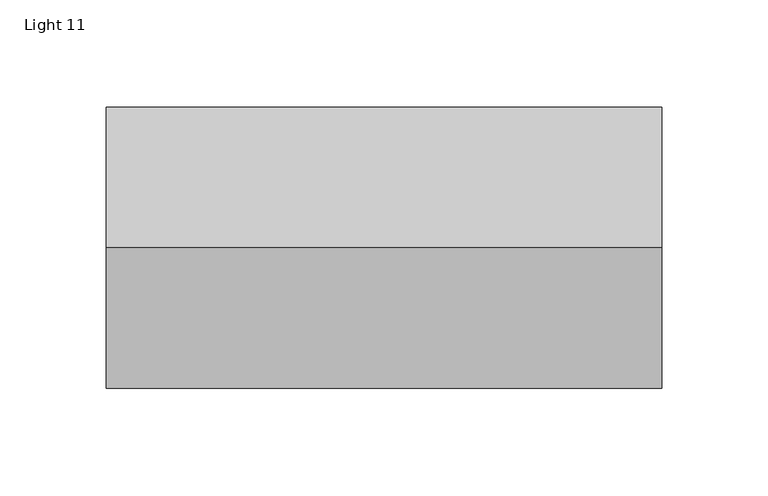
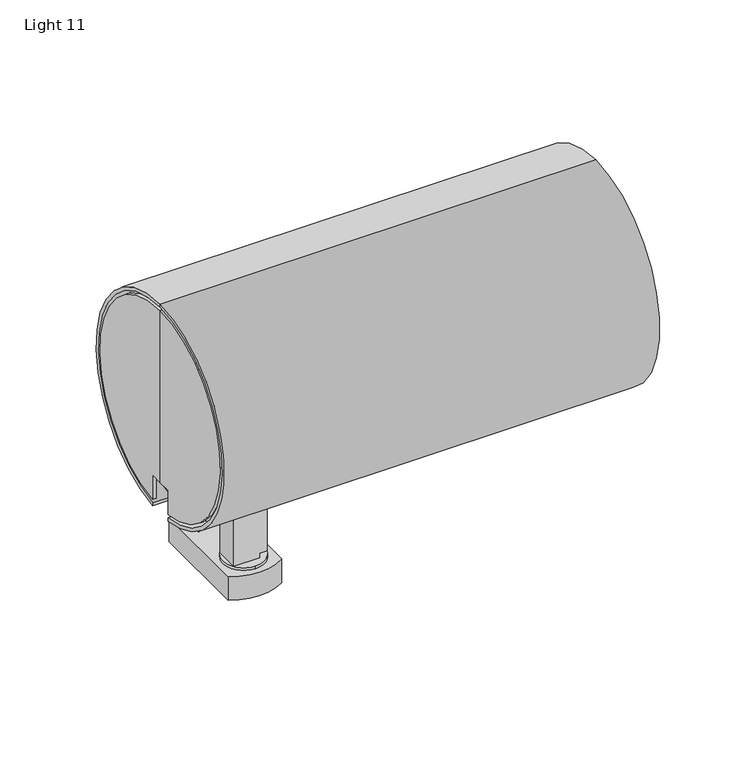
"""IFC4 building model written with IfcOpenShell, lengths in millimetres: light fixture geometry, PIPES T L : Light 11."""

from ifc_helpers import new_model, si_unit, point, frame, frame_2d, origin, origin_with_axes, origin_2d, place, context, project, spatial, polyline, circle_curve, trimmed, segment, composite_curve, outline, extrude, source, transform, mapped, element, save
from ifc_brep_helpers import plane_surface, cylinder_surface, revolved_surface, advanced_brep


def light_11_b50595c3(model_context):
    return source(origin(), model_context, "Body", "SolidModel", [
        advanced_brep(
        [(10.0, 7.0, 78.3537722), (10.0, 7.0, 19.4236941), (5.4241367, 7.0, 19.4236941), (5.4241367, 7.0, 16.8), (-10.0, 7.0, 16.8), (-10.0, 7.0, 70.8099323), (-2.6102343, 7.0, 79.2766927), (7.1274849, 7.0, 80.6452398), (7.1274849, 7.0, 78.3537722), (10.0, -7.0, 78.3537722), (7.1274849, -7.0, 78.3537722), (7.1274849, -7.0, 80.6452398), (-2.6102343, -7.0, 79.2766927), (-9.9702768, -7.0, 70.8099323), (-10.0, -7.0, 16.8), (5.4241367, -7.0, 16.8), (5.4241367, -7.0, 19.4236941), (10.0, -7.0, 19.4236941)],
        [
            (0, 1),
            (1, 2),
            (2, 3),
            (3, 4),
            (4, 5),
            (5, 6, circle_curve(frame((-1.4203087, 7.0, 70.8099323), z_axis=(0.0, 1.0, 0.0), x_axis=(1.0, 0.0, 0.0)), 8.5499681)),
            (6, 7),
            (7, 8),
            (8, 0),
            (9, 10),
            (10, 11),
            (11, 12),
            (12, 13, circle_curve(frame((-1.4203087, -7.0, 70.8099323), z_axis=(0.0, -1.0, 0.0), x_axis=(1.0, 0.0, 0.0)), 8.5499681)),
            (13, 14),
            (14, 15),
            (15, 16),
            (16, 17),
            (17, 9),
            (5, 13),
            (12, 6),
            (11, 7),
            (10, 8),
            (9, 0),
            (17, 1),
            (16, 2),
            (15, 3),
            (14, 4),
        ],
        [
            plane_surface(frame((10.0, 7.0, 21.3023289), z_axis=(0.0, 1.0, 0.0), x_axis=(0.0, 0.0, -1.0))),
            plane_surface(frame((10.0, -7.0, 21.3023289), z_axis=(0.0, -1.0, 0.0), x_axis=(0.0, 0.0, 1.0))),
            cylinder_surface(frame((-1.4203087, -7.0, 70.8099323), z_axis=(0.0, 1.0, 0.0), x_axis=(1.0, 0.0, 0.0)), 8.5499681),
            plane_surface(frame((-2.6102343, 7.0, 79.2766927), z_axis=(-0.1391731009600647, 0.0, 0.9902680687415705), x_axis=(0.0, -1.0, 0.0))),
            plane_surface(frame((7.1274849, 7.0, 80.6452398), z_axis=(1.0, 0.0, 0.0), x_axis=(0.0, -1.0, 0.0))),
            plane_surface(frame((7.1274849, 7.0, 78.3537722), z_axis=(0.0, 0.0, 1.0), x_axis=(0.0, -1.0, 0.0))),
            plane_surface(frame((10.0, 7.0, 78.3537722), z_axis=(1.0, 0.0, 0.0), x_axis=(0.0, -1.0, 0.0))),
            plane_surface(frame((10.0, 7.0, 19.4236941), z_axis=(0.0, 0.0, -1.0), x_axis=(0.0, -1.0, 0.0))),
            plane_surface(frame((5.4241367, 7.0, 19.4236941), z_axis=(1.0, 0.0, 0.0), x_axis=(0.0, -1.0, 0.0))),
            plane_surface(frame((5.4241367, 7.0, 16.8), z_axis=(0.0, 0.0, -1.0), x_axis=(0.0, -1.0, 0.0))),
            plane_surface(frame((-10.0, 7.0, 16.8), z_axis=(-1.0, 0.0, 0.0), x_axis=(0.0, -1.0, 0.0))),
        ],
        [
            (0, [[1, 2, 3, 4, 5, 6, 7, 8, 9]]),
            (1, [[10, 11, 12, 13, 14, 15, 16, 17, 18]]),
            (2, [[-6, 19, -13, 20]]),
            (3, [[-7, -20, -12, 21]]),
            (4, [[-8, -21, -11, 22]]),
            (5, [[-9, -22, -10, 23]]),
            (6, [[-1, -23, -18, 24]]),
            (7, [[-2, -24, -17, 25]]),
            (8, [[-3, -25, -16, 26]]),
            (9, [[-4, -26, -15, 27]]),
            (10, [[-5, -27, -14, -19]]),
        ],
    ),
        extrude(outline(composite_curve([segment(trimmed(circle_curve(origin_2d(), 12.5), [point((0.0, 12.5))], [point((0.0, -12.5))], False, "CARTESIAN"), True, "CONTINUOUS"), segment(trimmed(circle_curve(origin_2d(), 12.5), [point((0.0, -12.5))], [point((0.0, 12.5))], False, "CARTESIAN"), True, "CONTINUOUS")], self_intersect=False)), frame((0.0, 0.0, 15.0), z_axis=(0.0, 0.0, 1.0), x_axis=(1.0, 0.0, 0.0)), (0.0, 0.0, 1.0), 1.8),
        extrude(outline(composite_curve([segment(polyline([(-16.1153658, -11.6682336), (-16.1153658, 49.7317664)]), True, "CONTINUOUS"), segment(trimmed(circle_curve(frame_2d((0.0, 22.6472542)), 31.5162786), [point((-16.1153658, 49.7317664))], [point((16.1153658, 49.7317664))], False, "CARTESIAN"), True, "CONTINUOUS"), segment(polyline([(16.1153658, 49.7317664), (16.1153658, -11.6682336)]), True, "CONTINUOUS"), segment(trimmed(circle_curve(frame_2d((0.0, 15.4162786)), 31.5162786), [point((16.1153658, -11.6682336))], [point((-16.1153658, -11.6682336))], False, "CARTESIAN"), True, "CONTINUOUS")], self_intersect=False)), origin_with_axes(), (0.0, 0.0, 1.0), 15.0),
        advanced_brep(
        [(211.0, 0.0, 59.4236941), (211.0, 0.0, 192.4236941), (-50.0, 0.0, 192.4236941), (-50.0, -8.0, 59.9066508), (10.0, -8.0, 59.9066508), (10.0, 0.0, 59.4236941), (10.0, 8.0, 59.9066508), (-50.0, 8.0, 59.9066508), (-50.0, 0.0, 190.4236941), (-50.0, -8.0, 61.921741), (-50.0, 8.0, 61.921741), (-39.0, 0.0, 190.4236941), (-39.0, -8.0, 61.921741), (-39.0, 8.0, 61.921741), (-39.0, 0.0, 125.9236941), (-39.0, 0.0, 79.4236941), (-39.0, -8.0, 79.4236941), (-39.0, 8.0, 79.4236941), (172.0, 0.0, 168.5503073), (172.0, 0.0, 83.2970809), (172.0, 0.0, 125.9236941), (10.0, 8.0, 79.4236941), (10.0, -8.0, 79.4236941)],
        [
            (0, 1, circle_curve(frame((211.0, 0.0, 125.9236941), z_axis=(-1.0, 0.0, 0.0), x_axis=(0.0, 0.0, -1.0)), 66.5)),
            (1, 2),
            (2, 3, circle_curve(frame((-50.0, 0.0, 125.9236941), z_axis=(1.0, 0.0, 0.0), x_axis=(0.0, 0.0, -1.0)), 66.5)),
            (3, 4),
            (4, 5, circle_curve(frame((10.0, 0.0, 125.9236941), z_axis=(1.0, 0.0, 0.0), x_axis=(0.0, 0.0, -1.0)), 66.5)),
            (5, 0),
            (1, 0, circle_curve(frame((211.0, 0.0, 125.9236941), z_axis=(-1.0, 0.0, 0.0), x_axis=(0.0, 0.0, -1.0)), 66.5)),
            (5, 6, circle_curve(frame((10.0, 0.0, 125.9236941), z_axis=(1.0, 0.0, 0.0), x_axis=(0.0, 0.0, -1.0)), 66.5)),
            (6, 7),
            (7, 2, circle_curve(frame((-50.0, 0.0, 125.9236941), z_axis=(1.0, 0.0, 0.0), x_axis=(0.0, 0.0, -1.0)), 66.5)),
            (2, 8),
            (8, 9, circle_curve(frame((-50.0, 0.0, 125.9236941), z_axis=(1.0, 0.0, 0.0), x_axis=(0.0, 0.0, -1.0)), 64.5)),
            (9, 3),
            (7, 10),
            (10, 8, circle_curve(frame((-50.0, 0.0, 125.9236941), z_axis=(1.0, 0.0, 0.0), x_axis=(0.0, 0.0, -1.0)), 64.5)),
            (8, 11),
            (11, 12, circle_curve(frame((-39.0, 0.0, 125.9236941), z_axis=(1.0, 0.0, 0.0), x_axis=(0.0, 0.0, -1.0)), 64.5)),
            (12, 9),
            (10, 13),
            (13, 11, circle_curve(frame((-39.0, 0.0, 125.9236941), z_axis=(1.0, 0.0, 0.0), x_axis=(0.0, 0.0, -1.0)), 64.5)),
            (11, 14),
            (14, 15),
            (15, 16),
            (16, 12),
            (13, 17),
            (17, 15),
            (18, 19, circle_curve(frame((172.0, 0.0, 125.9236941), z_axis=(1.0, 0.0, 0.0), x_axis=(0.0, 0.0, -1.0)), 42.6266132)),
            (19, 20),
            (20, 18),
            (19, 18, circle_curve(frame((172.0, 0.0, 125.9236941), z_axis=(1.0, 0.0, 0.0), x_axis=(0.0, 0.0, -1.0)), 42.6266132)),
            (0, 19),
            (18, 1),
            (21, 17),
            (6, 21),
            (22, 4),
            (16, 22),
            (21, 22),
        ],
        [
            cylinder_surface(frame((-55.452381, 0.0, 125.9236941), z_axis=(-1.0, 0.0, 0.0), x_axis=(0.0, 0.0, -1.0)), 66.5),
            plane_surface(frame((-50.0, 0.0, 125.9236941), z_axis=(-1.0, 0.0, 0.0), x_axis=(0.0, 0.0, -1.0))),
            revolved_surface(polyline([(-50.0, 0.0, 61.423694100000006), (-39.0, 0.0, 61.423694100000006)]), (-55.452381, 0.0, 125.9236941), (-1.0, 0.0, 0.0)),
            plane_surface(frame((-39.0, 0.0, 125.9236941), z_axis=(-1.0, 0.0, 0.0), x_axis=(0.0, 0.0, -1.0))),
            plane_surface(frame((172.0, 0.0, 125.9236941), z_axis=(1.0, 0.0, 0.0), x_axis=(0.0, 0.0, -1.0))),
            revolved_surface(polyline([(172.0, 0.0, 83.2970809), (211.0, 0.0, 59.4236941)]), (-55.452381, 0.0, 125.9236941), (-1.0, 0.0, 0.0)),
            plane_surface(frame((11.0, 8.0, 79.4236941), z_axis=(0.0, -1.0, 0.0), x_axis=(1.0, 0.0, 0.0))),
            plane_surface(frame((11.0, -8.0, 79.4236941), z_axis=(0.0, 1.0, 0.0), x_axis=(-1.0, 0.0, 0.0))),
            plane_surface(frame((10.0, -8.0, 79.4236941), z_axis=(0.0, 0.0, -1.0), x_axis=(0.0, 1.0, 0.0))),
            plane_surface(frame((10.0, -8.0, 54.4236941), z_axis=(-1.0, 0.0, 0.0), x_axis=(0.0, 1.0, 0.0))),
        ],
        [
            (0, [[1, 2, 3, 4, 5, 6]]),
            (0, [[-2, 7, -6, 8, 9, 10]]),
            (1, [[11, 12, 13, -3]]),
            (1, [[-11, -10, 14, 15]]),
            (2, [[16, 17, 18, -12]]),
            (2, [[-16, -15, 19, 20]]),
            (3, [[21, 22, 23, 24, -17]]),
            (3, [[-21, -20, 25, 26, -22]]),
            (4, [[27, 28, 29]]),
            (4, [[-28, 30, -29]]),
            (5, [[-1, 31, -27, 32]]),
            (5, [[-7, -32, -30, -31]]),
            (6, [[33, -25, -19, -14, -9, 34]]),
            (7, [[35, -4, -13, -18, -24, 36]]),
            (8, [[37, -36, -23, -26, -33]]),
            (9, [[-37, -34, -8, -5, -35]]),
        ],
    ),
        advanced_brep(
        [(-48.0, 0.0, 125.9236941), (-48.0, 0.0, 188.4173375), (-48.0, -8.0, 63.9442179), (-48.0, -8.0, 79.4236941), (-48.0, 0.0, 79.4236941), (-48.0, 8.0, 79.4236941), (-48.0, 8.0, 63.9442179), (-50.0, 0.0, 188.4173375), (-50.0, -8.0, 63.9442179), (-50.0, 8.0, 63.9442179), (-50.0, 0.0, 125.9236941), (-50.0, 0.0, 79.4236941), (-50.0, -8.0, 79.4236941), (-50.0, 8.0, 79.4236941)],
        [
            (0, 1),
            (1, 2, circle_curve(frame((-48.0, 0.0, 125.9236941), z_axis=(1.0, 0.0, 0.0), x_axis=(0.0, 0.0, -1.0)), 62.4936434)),
            (2, 3),
            (3, 4),
            (4, 0),
            (4, 5),
            (5, 6),
            (6, 1, circle_curve(frame((-48.0, 0.0, 125.9236941), z_axis=(1.0, 0.0, 0.0), x_axis=(0.0, 0.0, -1.0)), 62.4936434)),
            (1, 7),
            (7, 8, circle_curve(frame((-50.0, 0.0, 125.9236941), z_axis=(1.0, 0.0, 0.0), x_axis=(0.0, 0.0, -1.0)), 62.4936434)),
            (8, 2),
            (6, 9),
            (9, 7, circle_curve(frame((-50.0, 0.0, 125.9236941), z_axis=(1.0, 0.0, 0.0), x_axis=(0.0, 0.0, -1.0)), 62.4936434)),
            (7, 10),
            (10, 11),
            (11, 12),
            (12, 8),
            (9, 13),
            (13, 11),
            (5, 13),
            (12, 3),
        ],
        [
            plane_surface(frame((-48.0, 0.0, 125.9236941), z_axis=(1.0, 0.0, 0.0), x_axis=(0.0, 0.0, -1.0))),
            cylinder_surface(frame((-55.452381, 0.0, 125.9236941), z_axis=(-1.0, 0.0, 0.0), x_axis=(0.0, 0.0, -1.0)), 62.4936434),
            plane_surface(frame((-50.0, 0.0, 125.9236941), z_axis=(-1.0, 0.0, 0.0), x_axis=(0.0, 0.0, -1.0))),
            plane_surface(frame((11.0, 8.0, 79.4236941), z_axis=(0.0, -1.0, 0.0), x_axis=(1.0, 0.0, 0.0))),
            plane_surface(frame((11.0, -8.0, 79.4236941), z_axis=(0.0, 1.0, 0.0), x_axis=(-1.0, 0.0, 0.0))),
            plane_surface(frame((10.0, -8.0, 79.4236941), z_axis=(0.0, 0.0, -1.0), x_axis=(0.0, 1.0, 0.0))),
        ],
        [
            (0, [[1, 2, 3, 4, 5]]),
            (0, [[-1, -5, 6, 7, 8]]),
            (1, [[9, 10, 11, -2]]),
            (1, [[-9, -8, 12, 13]]),
            (2, [[14, 15, 16, 17, -10]]),
            (2, [[-14, -13, 18, 19, -15]]),
            (3, [[20, -18, -12, -7]]),
            (4, [[21, -3, -11, -17]]),
            (5, [[-20, -6, -4, -21, -16, -19]]),
        ],
    ),
        advanced_brep(
        [(211.0, 0.0, 192.4236941), (211.0, 0.0, 59.4236941), (211.0, 0.0, 60.5961757), (211.0, 0.0, 191.2512125), (173.0, 0.0, 167.9899638), (173.0, 0.0, 83.8574243), (173.0, 0.0, 125.9236941), (172.0, 0.0, 168.5503073), (172.0, 0.0, 83.2970809), (172.0, 0.0, 125.9236941)],
        [
            (0, 1, circle_curve(frame((211.0, 0.0, 125.9236941), z_axis=(1.0, 0.0, 0.0), x_axis=(0.0, 0.0, -1.0)), 66.5)),
            (1, 2),
            (2, 3, circle_curve(frame((211.0, 0.0, 125.9236941), z_axis=(-1.0, 0.0, 0.0), x_axis=(0.0, 0.0, -1.0)), 65.3275184)),
            (3, 0),
            (1, 0, circle_curve(frame((211.0, 0.0, 125.9236941), z_axis=(1.0, 0.0, 0.0), x_axis=(0.0, 0.0, -1.0)), 66.5)),
            (3, 2, circle_curve(frame((211.0, 0.0, 125.9236941), z_axis=(-1.0, 0.0, 0.0), x_axis=(0.0, 0.0, -1.0)), 65.3275184)),
            (4, 5, circle_curve(frame((173.0, 0.0, 125.9236941), z_axis=(1.0, 0.0, 0.0), x_axis=(0.0, 0.0, -1.0)), 42.0662698)),
            (5, 6),
            (6, 4),
            (5, 4, circle_curve(frame((173.0, 0.0, 125.9236941), z_axis=(1.0, 0.0, 0.0), x_axis=(0.0, 0.0, -1.0)), 42.0662698)),
            (7, 8, circle_curve(frame((172.0, 0.0, 125.9236941), z_axis=(1.0, 0.0, 0.0), x_axis=(0.0, 0.0, -1.0)), 42.6266132)),
            (8, 1),
            (0, 7),
            (8, 7, circle_curve(frame((172.0, 0.0, 125.9236941), z_axis=(1.0, 0.0, 0.0), x_axis=(0.0, 0.0, -1.0)), 42.6266132)),
            (9, 8),
            (7, 9),
            (2, 5),
            (4, 3),
        ],
        [
            plane_surface(frame((211.0, 0.0, 125.9236941), z_axis=(1.0, 0.0, 0.0), x_axis=(0.0, 0.0, -1.0))),
            plane_surface(frame((173.0, 0.0, 125.9236941), z_axis=(1.0, 0.0, 0.0), x_axis=(0.0, 0.0, -1.0))),
            revolved_surface(polyline([(211.0, 0.0, 59.4236941), (172.0, 0.0, 83.2970809)]), (-55.452381, 0.0, 125.9236941), (-1.0, 0.0, 0.0)),
            plane_surface(frame((172.0, 0.0, 125.9236941), z_axis=(-1.0, 0.0, 0.0), x_axis=(0.0, 0.0, -1.0))),
            revolved_surface(polyline([(173.0, 0.0, 83.8574243), (211.0, 0.0, 60.5961757)]), (-55.452381, 0.0, 125.9236941), (-1.0, 0.0, 0.0)),
        ],
        [
            (0, [[1, 2, 3, 4]]),
            (0, [[5, -4, 6, -2]]),
            (1, [[7, 8, 9]]),
            (1, [[10, -9, -8]]),
            (2, [[11, 12, -1, 13]]),
            (2, [[14, -13, -5, -12]]),
            (3, [[15, -11, 16]]),
            (3, [[-16, -14, -15]]),
            (4, [[-3, 17, -7, 18]]),
            (4, [[-6, -18, -10, -17]]),
        ],
    ),
    ])


if __name__ == "__main__":
    model = new_model("IFC4")
    model_context = context("Model", 3, world=origin())
    ifc_project = project(units=[si_unit("LENGTHUNIT", "METRE", prefix="MILLI")], contexts=[model_context])
    site = spatial("IfcSite", under=ifc_project)
    building = spatial("IfcBuilding", under=site)
    placement = place(None, origin())
    light_11_shape = light_11_b50595c3(model_context)
    element("IfcLightFixture", 1, ObjectType="PIPES T L : Light 11", at=placement, inside=building, context=model_context, shape_type="MappedRepresentation", body=[
        mapped(light_11_shape, transform((0.0, 0.0, 0.0), x_axis=(1.0, 0.0, 0.0), y_axis=(0.0, 1.0, 0.0), z_axis=(0.0, 0.0, 1.0))),
    ])
    save(model, "model.ifc")
